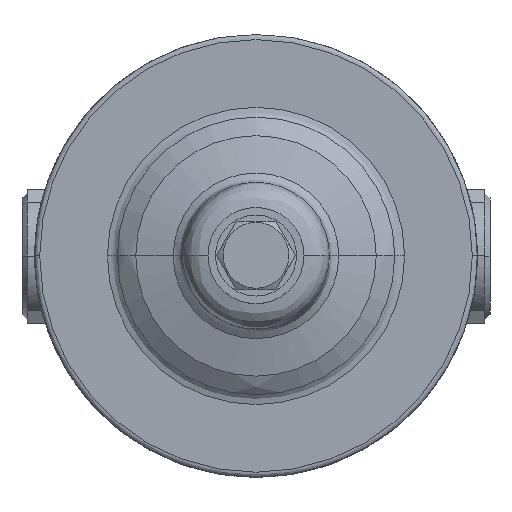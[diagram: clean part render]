
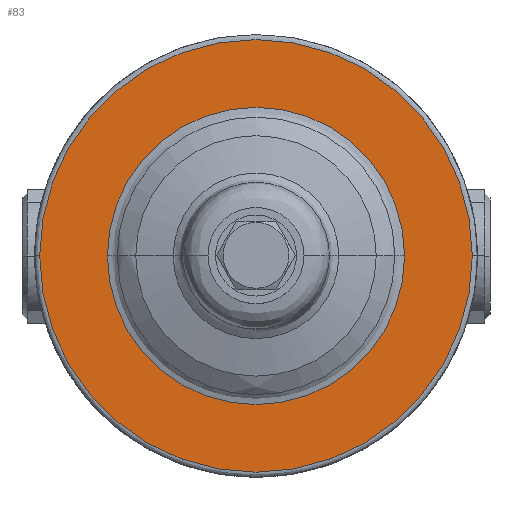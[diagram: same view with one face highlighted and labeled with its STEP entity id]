
A CAD part, top view. The second image highlights one B-rep face of the part: STEP entity #83.
In plain terms, the highlighted planar face has unit normal (0, 0, 1).
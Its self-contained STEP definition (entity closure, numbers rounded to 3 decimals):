
#83=ADVANCED_FACE('',(#640,#641),#639,.F.);
#639=PLANE('',#2695);
#640=FACE_OUTER_BOUND('',#2696,.T.);
#641=FACE_BOUND('',#2697,.T.);
#2692=CARTESIAN_POINT('',(181.,-158.09,54.985));
#2693=DIRECTION('',(0.,0.,-1.));
#2694=DIRECTION('',(-1.,0.,0.));
#2695=AXIS2_PLACEMENT_3D('',#2692,#2693,#2694);
#2696=EDGE_LOOP('',(#5099,#5100));
#2697=EDGE_LOOP('',(#5101,#5102));
#5099=ORIENTED_EDGE('',*,*,#5852,.T.);
#5100=ORIENTED_EDGE('',*,*,#5853,.T.);
#5101=ORIENTED_EDGE('',*,*,#5854,.T.);
#5102=ORIENTED_EDGE('',*,*,#5855,.T.);
#5852=EDGE_CURVE('',#7085,#7086,#7087,.T.);
#5853=EDGE_CURVE('',#7086,#7085,#7093,.T.);
#5854=EDGE_CURVE('',#7099,#7100,#7101,.T.);
#5855=EDGE_CURVE('',#7100,#7099,#7107,.T.);
#7085=VERTEX_POINT('',#9712);
#7086=VERTEX_POINT('',#9713);
#7087=CIRCLE('',#9717,85.5);
#7093=CIRCLE('',#9721,85.5);
#7099=VERTEX_POINT('',#9722);
#7100=VERTEX_POINT('',#9723);
#7101=CIRCLE('',#9727,58.75);
#7107=CIRCLE('',#9731,58.75);
#9712=CARTESIAN_POINT('',(-85.5,0.,54.985));
#9713=CARTESIAN_POINT('',(85.5,0.,54.985));
#9714=CARTESIAN_POINT('',(0.,0.,54.985));
#9715=DIRECTION('',(0.,0.,1.));
#9716=DIRECTION('',(-1.,0.,0.));
#9717=AXIS2_PLACEMENT_3D('',#9714,#9715,#9716);
#9718=CARTESIAN_POINT('',(0.,0.,54.985));
#9719=DIRECTION('',(0.,0.,1.));
#9720=DIRECTION('',(-1.,0.,0.));
#9721=AXIS2_PLACEMENT_3D('',#9718,#9719,#9720);
#9722=CARTESIAN_POINT('',(-58.75,0.,54.985));
#9723=CARTESIAN_POINT('',(58.75,0.,54.985));
#9724=CARTESIAN_POINT('',(0.,0.,54.985));
#9725=DIRECTION('',(0.,0.,-1.));
#9726=DIRECTION('',(-1.,0.,0.));
#9727=AXIS2_PLACEMENT_3D('',#9724,#9725,#9726);
#9728=CARTESIAN_POINT('',(0.,0.,54.985));
#9729=DIRECTION('',(0.,0.,-1.));
#9730=DIRECTION('',(-1.,0.,0.));
#9731=AXIS2_PLACEMENT_3D('',#9728,#9729,#9730);
